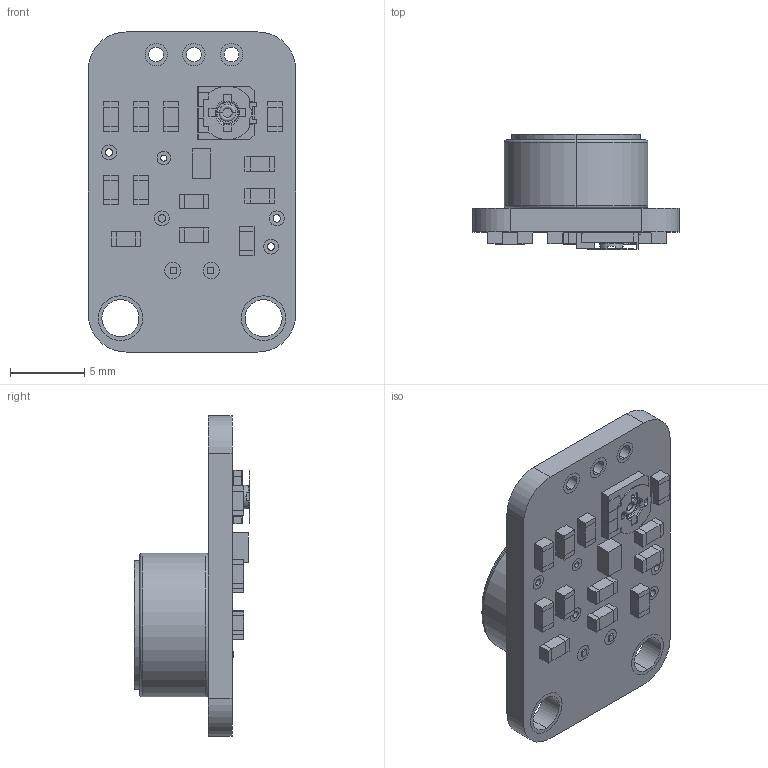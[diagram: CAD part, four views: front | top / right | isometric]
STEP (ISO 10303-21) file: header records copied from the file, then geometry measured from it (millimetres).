
FILE_DESCRIPTION (( 'STEP AP214' ), '1' );
FILE_NAME ('1063.STEP', '2022-10-21T18:43:48', ( '' ), ( '' ), 'SwSTEP 2.0', 'SolidWorks 2017', '' );
FILE_SCHEMA (( 'AUTOMOTIVE_DESIGN' ));
Length unit declared in the file: inch
Products named in the file (1): 1063
Bounding box: 13.97 x 7.8 x 21.59 mm (x, y, z)
Volume: 844.9 mm3; surface area: 1544.6 mm2
Topology: 54 solids, 54 shells, 492 faces, 1137 edges, 750 vertices
Faces by surface type: plane 362, cylinder 110, torus 20
Entity records: 14858 total; most frequent: CARTESIAN_POINT 2660, DIRECTION 2369, ORIENTED_EDGE 2274, EDGE_CURVE 1137, LINE 851, VECTOR 851, AXIS2_PLACEMENT_3D 759, VERTEX_POINT 750
